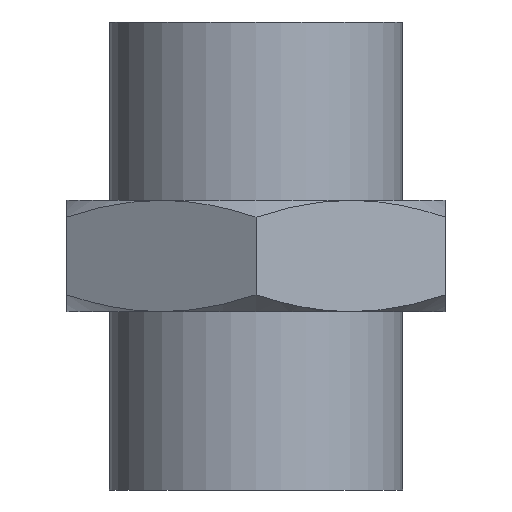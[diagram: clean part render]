
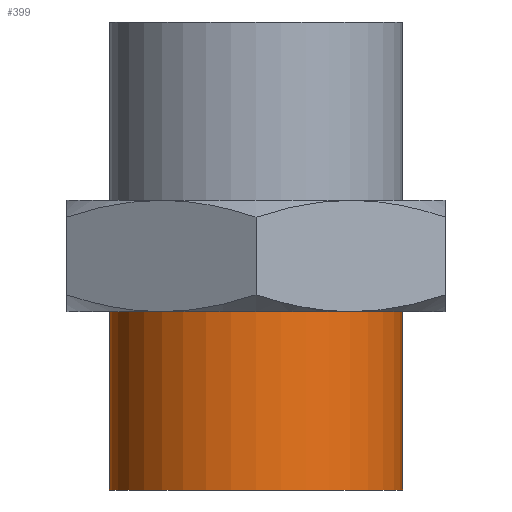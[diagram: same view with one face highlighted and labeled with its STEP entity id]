
A CAD part, front view. The second image highlights one B-rep face of the part: STEP entity #399.
In plain terms, the highlighted cylindrical face has radius 6.579 mm (diameter 13.157 mm), a full revolution.
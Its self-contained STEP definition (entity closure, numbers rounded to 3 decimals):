
#72=FACE_OUTER_BOUND('',#98,.T.);
#98=EDGE_LOOP('',(#281,#282,#283,#284,#285,#286));
#119=LINE('',#667,#128);
#128=VECTOR('',#527,6.579);
#145=CIRCLE('',#453,6.579);
#146=CIRCLE('',#454,6.579);
#147=CIRCLE('',#456,6.579);
#148=CIRCLE('',#457,6.579);
#174=VERTEX_POINT('',#661);
#175=VERTEX_POINT('',#662);
#176=VERTEX_POINT('',#666);
#177=VERTEX_POINT('',#668);
#216=EDGE_CURVE('',#174,#175,#145,.T.);
#217=EDGE_CURVE('',#175,#174,#146,.T.);
#218=EDGE_CURVE('',#175,#176,#119,.T.);
#219=EDGE_CURVE('',#177,#176,#147,.T.);
#220=EDGE_CURVE('',#176,#177,#148,.T.);
#281=ORIENTED_EDGE('',*,*,#216,.T.);
#282=ORIENTED_EDGE('',*,*,#218,.T.);
#283=ORIENTED_EDGE('',*,*,#219,.F.);
#284=ORIENTED_EDGE('',*,*,#220,.F.);
#285=ORIENTED_EDGE('',*,*,#218,.F.);
#286=ORIENTED_EDGE('',*,*,#217,.T.);
#363=CYLINDRICAL_SURFACE('',#455,6.579);
#399=ADVANCED_FACE('',(#72),#363,.T.);
#453=AXIS2_PLACEMENT_3D('',#663,#521,#522);
#454=AXIS2_PLACEMENT_3D('',#664,#523,#524);
#455=AXIS2_PLACEMENT_3D('',#665,#525,#526);
#456=AXIS2_PLACEMENT_3D('',#669,#528,#529);
#457=AXIS2_PLACEMENT_3D('',#670,#530,#531);
#521=DIRECTION('center_axis',(0.,0.,-1.));
#522=DIRECTION('ref_axis',(1.,0.,0.));
#523=DIRECTION('center_axis',(0.,0.,-1.));
#524=DIRECTION('ref_axis',(1.,0.,0.));
#525=DIRECTION('center_axis',(0.,0.,-1.));
#526=DIRECTION('ref_axis',(0.,-1.,0.));
#527=DIRECTION('',(0.,0.,-1.));
#528=DIRECTION('center_axis',(0.,0.,-1.));
#529=DIRECTION('ref_axis',(0.,-1.,0.));
#530=DIRECTION('center_axis',(0.,0.,-1.));
#531=DIRECTION('ref_axis',(0.,-1.,0.));
#661=CARTESIAN_POINT('',(0.,-6.579,8.));
#662=CARTESIAN_POINT('',(0.,6.579,8.));
#663=CARTESIAN_POINT('Origin',(0.,0.,8.));
#664=CARTESIAN_POINT('Origin',(0.,0.,8.));
#665=CARTESIAN_POINT('Origin',(0.,0.,4.));
#666=CARTESIAN_POINT('',(0.,6.579,0.));
#667=CARTESIAN_POINT('',(0.,6.579,4.));
#668=CARTESIAN_POINT('',(0.,-6.579,0.));
#669=CARTESIAN_POINT('Origin',(0.,0.,0.));
#670=CARTESIAN_POINT('Origin',(0.,0.,0.));
